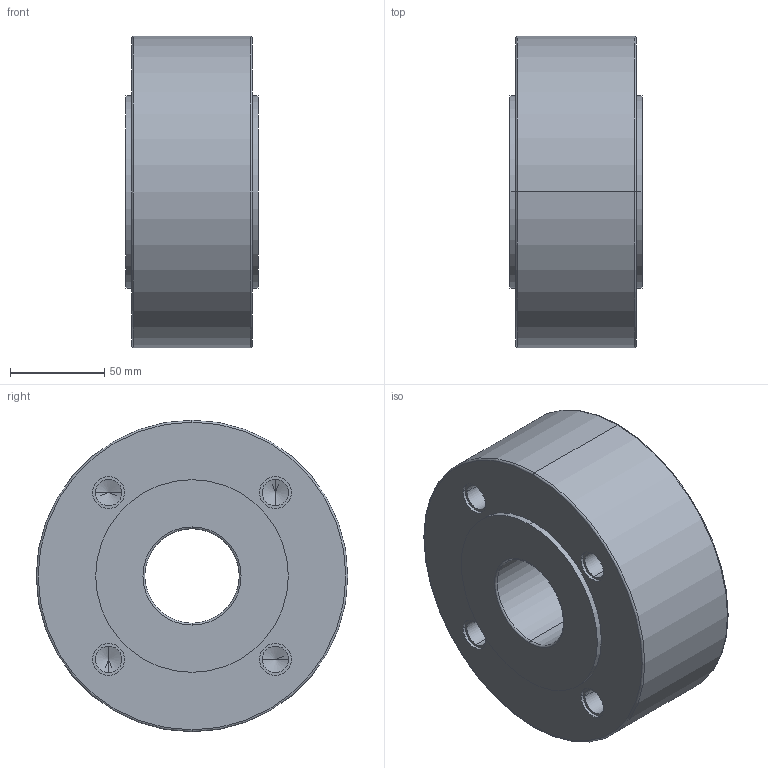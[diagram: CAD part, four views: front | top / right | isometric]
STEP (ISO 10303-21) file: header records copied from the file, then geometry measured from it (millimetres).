
FILE_DESCRIPTION (( 'STEP AP203' ), '1' );
FILE_NAME ('W8_PN10_DN050.STEP', '2012-10-31T06:56:10', ( 'luca.saino' ), ( 'Hewlett-Packard Company' ), 'SwSTEP 2.0', 'SolidWorks 2012', '' );
FILE_SCHEMA (( 'CONFIG_CONTROL_DESIGN' ));
Length unit declared in the file: millimetre
Products named in the file (1): W8_PN10_DN050
Bounding box: 70 x 165 x 165 mm (x, y, z)
Volume: 1251676.3 mm3; surface area: 92021.5 mm2
Topology: 1 solids, 1 shells, 76 faces, 168 edges, 96 vertices
Faces by surface type: cylinder 40, cone 16, plane 12, torus 8
Entity records: 2085 total; most frequent: DIRECTION 402, CARTESIAN_POINT 325, ORIENTED_EDGE 304, AXIS2_PLACEMENT_3D 173, EDGE_CURVE 152, EDGE_LOOP 96, VERTEX_POINT 96, CIRCLE 96
